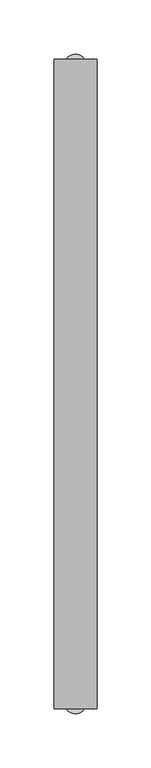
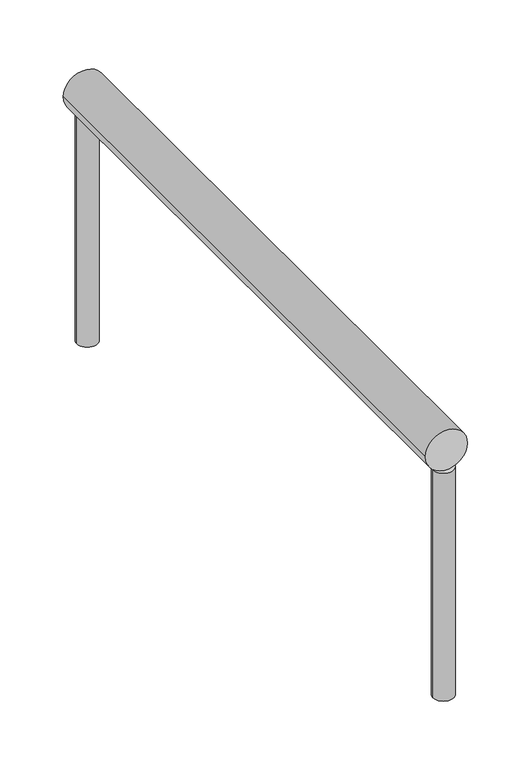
"""IFC4 building model written with IfcOpenShell, lengths in millimetres: railing geometry, Geländer-1."""

from ifc_helpers import new_model, si_unit, point, frame, frame_2d, origin, place, context, project, spatial, circle_curve, trimmed, segment, composite_curve, outline, extrude, source, transform, mapped, element, save


def railing_2217c0fb(model_context):
    return source(origin(), model_context, "Body", "SweptSolid", [
        extrude(outline(composite_curve([segment(trimmed(circle_curve(frame_2d((1700.0, 1876.3556316)), 20.0), [point((1700.0, 1856.3556316))], [point((1700.0, 1896.3556316))], False, "CARTESIAN"), True, "CONTINUOUS"), segment(trimmed(circle_curve(frame_2d((1700.0, 1876.3556316)), 20.0), [point((1700.0, 1896.3556316))], [point((1700.0, 1856.3556316))], False, "CARTESIAN"), True, "CONTINUOUS")], self_intersect=False)), frame((0.0, -600.0, 0.0), z_axis=(0.0, 1.0, 0.0), x_axis=(0.0, 0.0, 1.0)), (0.0, 0.0, 1.0), 600.0),
        extrude(outline(composite_curve([segment(trimmed(circle_curve(frame_2d((1876.3556316, -595.0)), 10.0), [point((1866.3556316, -595.0))], [point((1886.3556316, -595.0))], False, "CARTESIAN"), True, "CONTINUOUS"), segment(trimmed(circle_curve(frame_2d((1876.3556316, -595.0)), 10.0), [point((1886.3556316, -595.0))], [point((1866.3556316, -595.0))], False, "CARTESIAN"), True, "CONTINUOUS")], self_intersect=False)), frame((0.0, 0.0, 1450.0), z_axis=(0.0, 0.0, 1.0), x_axis=(1.0, 0.0, 0.0)), (0.0, 0.0, 1.0), 230.0),
        extrude(outline(composite_curve([segment(trimmed(circle_curve(frame_2d((1876.3556316, -5.0)), 10.0), [point((1866.3556316, -5.0))], [point((1886.3556316, -5.0))], False, "CARTESIAN"), True, "CONTINUOUS"), segment(trimmed(circle_curve(frame_2d((1876.3556316, -5.0)), 10.0), [point((1886.3556316, -5.0))], [point((1866.3556316, -5.0))], False, "CARTESIAN"), True, "CONTINUOUS")], self_intersect=False)), frame((0.0, 0.0, 1450.0), z_axis=(0.0, 0.0, 1.0), x_axis=(1.0, 0.0, 0.0)), (0.0, 0.0, 1.0), 230.0),
    ])


if __name__ == "__main__":
    model = new_model("IFC4")
    model_context = context("Model", 3, world=origin())
    ifc_project = project(units=[si_unit("LENGTHUNIT", "METRE", prefix="MILLI")], contexts=[model_context])
    site = spatial("IfcSite", under=ifc_project)
    building = spatial("IfcBuilding", under=site)
    placement = place(None, origin())
    railing_shape = railing_2217c0fb(model_context)
    element("IfcRailing", 1, ObjectType="Geländer-1", at=placement, inside=building, context=model_context, shape_type="MappedRepresentation", body=[
        mapped(railing_shape, transform((0.0, 0.0, 0.0), x_axis=(1.0, 0.0, 0.0), y_axis=(0.0, 1.0, 0.0), z_axis=(0.0, 0.0, 1.0))),
    ])
    save(model, "model.ifc")
